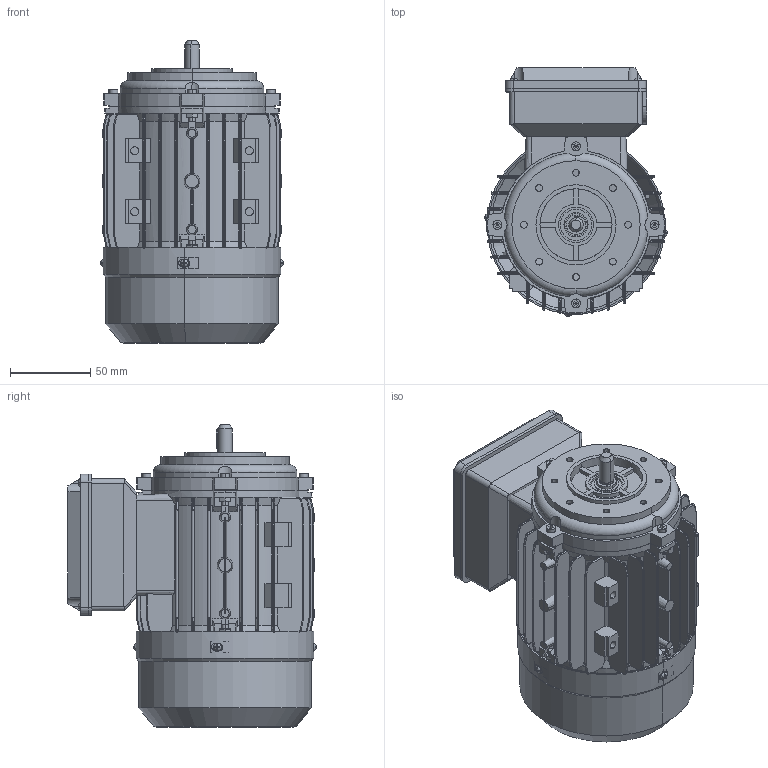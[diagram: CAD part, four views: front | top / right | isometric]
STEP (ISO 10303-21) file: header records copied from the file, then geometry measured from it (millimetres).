
FILE_DESCRIPTION (( 'STEP AP203' ), '1' );
FILE_NAME ('B14.STEP', '2019-09-09T13:00:17', ( '微软中国' ), ( '微软中国' ), 'SwSTEP 2.0', 'SolidWorks 2012', '' );
FILE_SCHEMA (( 'CONFIG_CONTROL_DESIGN' ));
Length unit declared in the file: millimetre
Products named in the file (15): B14; 瑩; 蹟譫; 蹟邡; 蹟隊; 諉盄碟裔; 諉盄碟釱; 瑞欶; 瑞珔; 蚐猾; 粣創; 蛌赽; B3綴裔; 儂褲
Assembly tree (35 placements, depth 2):
  B14
    儂褲
    B14
    B3綴裔
    蛌赽
    粣創
    蚐猾
    瑞珔
    瑞欶
    諉盄碟釱
    諉盄碟裔
    蹟隊  x8
    蹟邡  x8
    蹟譫  x8
    瑩
Bounding box: 113.63 x 154.82 x 188.61 mm (x, y, z)
Volume: 362102.5 mm3; surface area: 307940.6 mm2
Topology: 38 solids, 38 shells, 2208 faces, 5707 edges, 3648 vertices
Faces by surface type: plane 1114, cylinder 797, cone 139, bspline 98, torus 60
Entity records: 63539 total; most frequent: CARTESIAN_POINT 17250, ORIENTED_EDGE 9562, DIRECTION 8782, EDGE_CURVE 4781, VERTEX_POINT 3067, AXIS2_PLACEMENT_3D 3003, LINE 2776, VECTOR 2776
